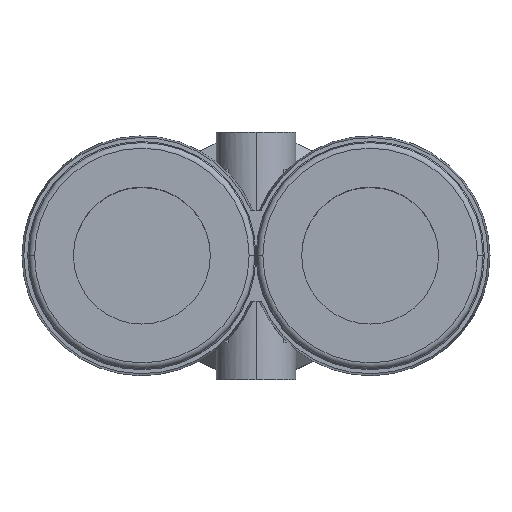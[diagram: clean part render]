
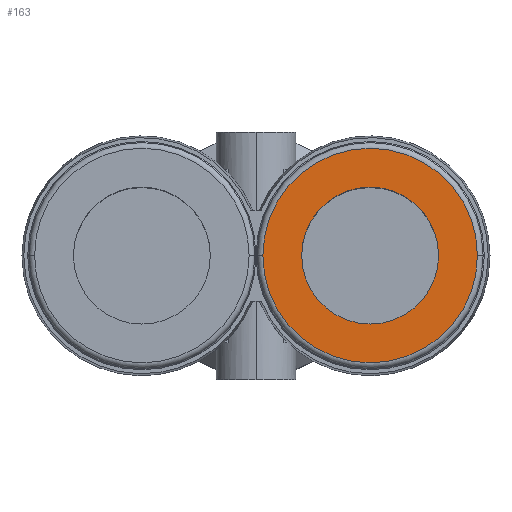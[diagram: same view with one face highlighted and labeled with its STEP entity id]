
A CAD part, top view. The second image highlights one B-rep face of the part: STEP entity #163.
In plain terms, the highlighted planar face has unit normal (0, 0, 1).
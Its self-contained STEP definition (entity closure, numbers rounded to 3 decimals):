
#38=FACE_BOUND('',#2442,.T.);
#107=PLANE('',#3499);
#163=ADVANCED_FACE('PY12_',(#347,#38),#107,.T.);
#347=FACE_OUTER_BOUND('',#2441,.T.);
#947=ORIENTED_EDGE('',*,*,#1501,.T.);
#948=ORIENTED_EDGE('',*,*,#1502,.T.);
#949=ORIENTED_EDGE('',*,*,#1503,.F.);
#950=ORIENTED_EDGE('',*,*,#1504,.F.);
#1501=EDGE_CURVE('268',#2290,#2291,#2076,.T.);
#1502=EDGE_CURVE('269',#2291,#2290,#2077,.T.);
#1503=EDGE_CURVE('239',#2292,#2293,#2078,.T.);
#1504=EDGE_CURVE('238',#2293,#2292,#2079,.T.);
#2076=CIRCLE('',#3495,9.4);
#2077=CIRCLE('',#3496,9.4);
#2078=CIRCLE('',#3497,6.);
#2079=CIRCLE('',#3498,6.);
#2290=VERTEX_POINT('99',#3006);
#2291=VERTEX_POINT('190',#3007);
#2292=VERTEX_POINT('180',#3010);
#2293=VERTEX_POINT('100',#3011);
#2441=EDGE_LOOP('',(#947,#948));
#2442=EDGE_LOOP('',(#949,#950));
#3006=CARTESIAN_POINT('',(0.6,0.,22.2));
#3007=CARTESIAN_POINT('',(19.4,0.,22.2));
#3008=CARTESIAN_POINT('',(10.,0.,22.2));
#3009=CARTESIAN_POINT('',(10.,0.,22.2));
#3010=CARTESIAN_POINT('',(16.,0.,22.2));
#3011=CARTESIAN_POINT('',(4.,0.,22.2));
#3012=CARTESIAN_POINT('',(10.,0.,22.2));
#3013=CARTESIAN_POINT('',(10.,0.,22.2));
#3014=CARTESIAN_POINT('',(0.1,9.9,22.2));
#3495=AXIS2_PLACEMENT_3D('',#3008,#3687,#3694);
#3496=AXIS2_PLACEMENT_3D('',#3009,#3687,#3688);
#3497=AXIS2_PLACEMENT_3D('',#3012,#3687,#3688);
#3498=AXIS2_PLACEMENT_3D('',#3013,#3687,#3694);
#3499=AXIS2_PLACEMENT_3D('',#3014,#3687,#3693);
#3687=DIRECTION('',(0.,0.,1.));
#3688=DIRECTION('',(1.,0.,0.));
#3693=DIRECTION('',(0.,-1.,0.));
#3694=DIRECTION('',(-1.,0.,0.));
